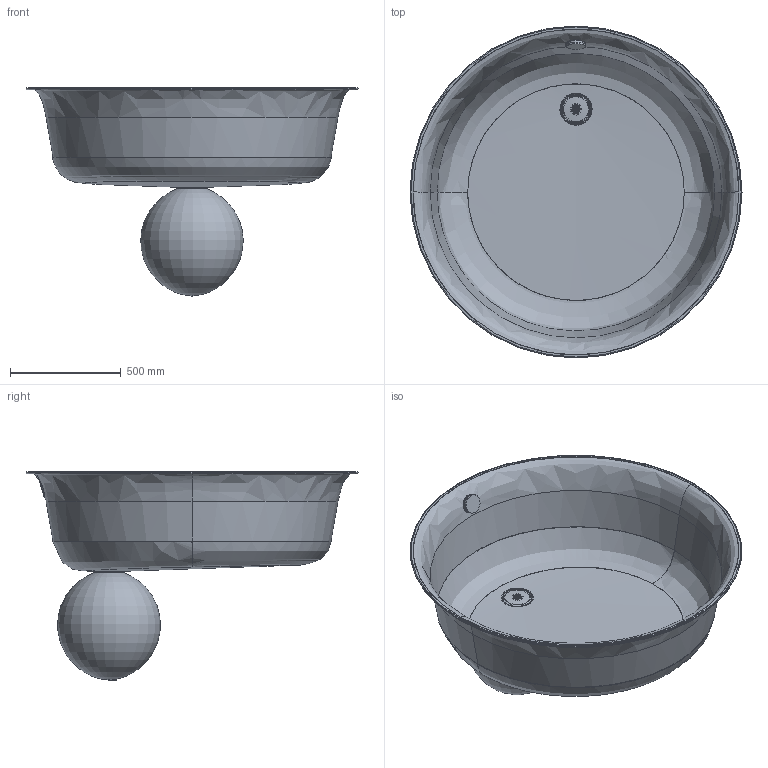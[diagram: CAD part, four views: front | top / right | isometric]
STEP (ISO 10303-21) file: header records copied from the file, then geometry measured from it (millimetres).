
FILE_DESCRIPTION((' '),'2;1');
FILE_NAME( '177d9eb555bc41c3.stp', '2021-02-25T17:00:14', (' '), ('--- Datakit www.datakit.com---'), ' Datakit CrossCadWare V2021.1 Jan 6 2021', 'DATAKIT 2021 (c)', ' ');
FILE_SCHEMA(('CONFIG_CONTROL_DESIGN'));
Length unit declared in the file: millimetre
Products named in the file (1): 173fcc750071e4c3
Bounding box: 1500 x 1500 x 941.4 mm (x, y, z)
Volume: 54706922.4 mm3; surface area: 5435793.4 mm2
Topology: 2 solids, 3 shells, 88 faces, 200 edges, 127 vertices
Faces by surface type: bspline 25, torus 22, plane 17, cylinder 11, cone 10, offset 3
Full cylindrical faces by diameter (mm): 35 x1, 52 x1, 90 x1, 1470 x1
Entity records: 34815 total; most frequent: CARTESIAN_POINT 33077, ORIENTED_EDGE 348, DIRECTION 302, EDGE_CURVE 174, AXIS2_PLACEMENT_3D 141, EDGE_LOOP 127, VERTEX_POINT 120, ADVANCED_FACE 92
